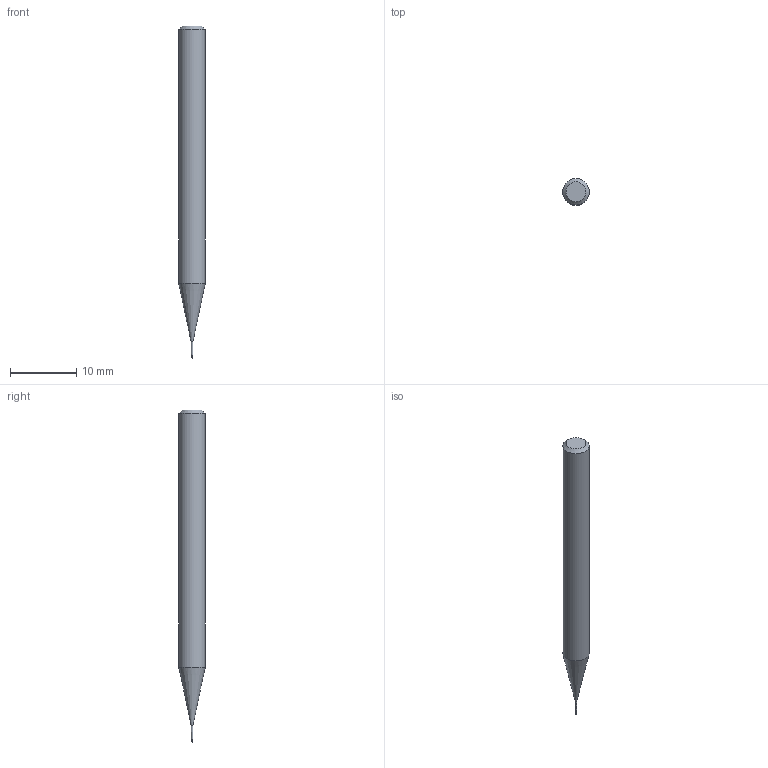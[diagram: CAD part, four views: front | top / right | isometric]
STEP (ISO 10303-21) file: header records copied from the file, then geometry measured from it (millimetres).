
FILE_DESCRIPTION((''),'2;1');
FILE_NAME('C:\Users\nsx150\AppData\Local\Temp\Mastercam 2021\SNAKH10GOD\TEMP.step','2021-10-21T13:30:33',(''),(''),'STEP Write','Mastercam 2021 ... CNC Software, Inc.','');
FILE_SCHEMA(('AUTOMOTIVE_DESIGN'));
Length unit declared in the file: millimetre
Products named in the file (1): None
Bounding box: 4 x 4 x 50 mm (x, y, z)
Volume: 524.7 mm3; surface area: 557.2 mm2
Topology: 2 solids, 2 shells, 10 faces, 16 edges, 9 vertices
Faces by surface type: plane 3, cylinder 3, cone 3, sphere 1
Full cylindrical faces by diameter (mm): 0.195 x1, 0.2 x1, 4 x1
Entity records: 232 total; most frequent: DIRECTION 40, CARTESIAN_POINT 28, AXIS2_PLACEMENT_3D 20, ORIENTED_EDGE 16, EDGE_LOOP 16, STYLED_ITEM 13, ADVANCED_FACE 10, FACE_BOUND 9
